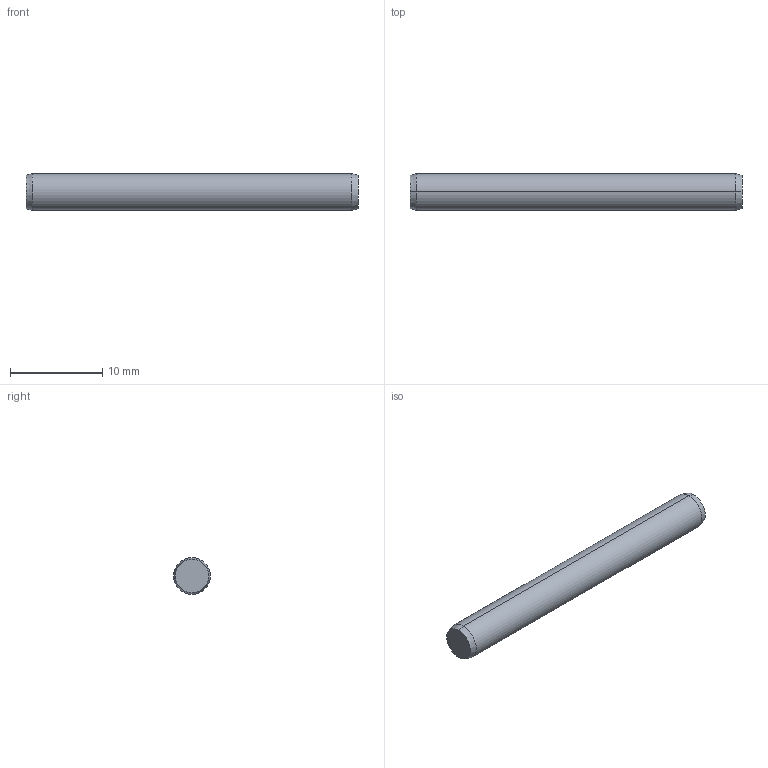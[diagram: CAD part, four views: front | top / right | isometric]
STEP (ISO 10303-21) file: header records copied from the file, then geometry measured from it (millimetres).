
FILE_DESCRIPTION (( 'STEP AP203' ), '1' );
FILE_NAME ('P1206.040-036.step', '2017-06-14T08:12:04', ( 'User' ), ( '' ), 'SwSTEP 2.0', 'SolidWorks 2009', '' );
FILE_SCHEMA (( 'CONFIG_CONTROL_DESIGN' ));
Length unit declared in the file: millimetre
Products named in the file (1): P1206.040-036
Bounding box: 36 x 4 x 4 mm (x, y, z)
Volume: 450.8 mm3; surface area: 472.8 mm2
Topology: 1 solids, 1 shells, 8 faces, 14 edges, 8 vertices
Faces by surface type: cone 4, cylinder 2, plane 2
Entity records: 271 total; most frequent: DIRECTION 40, CARTESIAN_POINT 31, ORIENTED_EDGE 28, AXIS2_PLACEMENT_3D 17, EDGE_CURVE 14, VERTEX_POINT 8, EDGE_LOOP 8, ADVANCED_FACE 8
